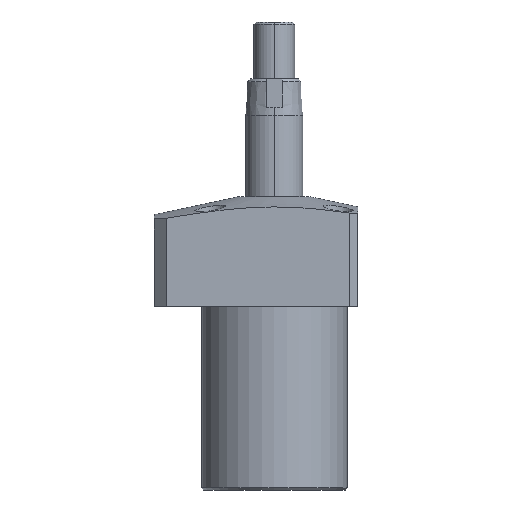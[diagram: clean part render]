
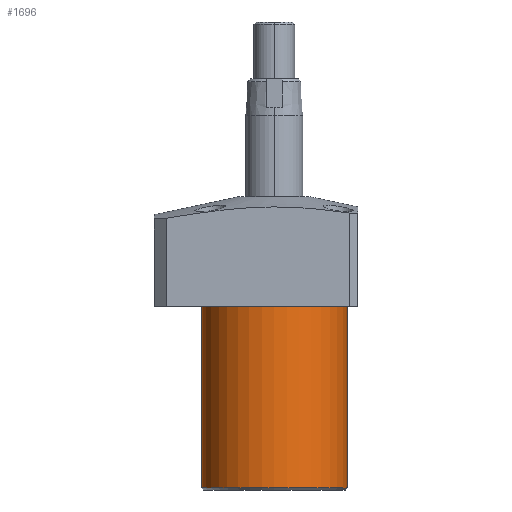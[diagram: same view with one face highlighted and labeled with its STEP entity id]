
A CAD part, front view. The second image highlights one B-rep face of the part: STEP entity #1696.
In plain terms, the highlighted cylindrical face has radius 17.9 mm (diameter 35.8 mm), a partial arc.
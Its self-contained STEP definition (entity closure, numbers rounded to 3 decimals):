
#16 = FACE_OUTER_BOUND ( 'NONE', #1836, .T. ) ;
#19 = ORIENTED_EDGE ( 'NONE', *, *, #1297, .F. ) ;
#167 = DIRECTION ( 'NONE',  ( 0., 0., 1. ) ) ;
#169 = VERTEX_POINT ( 'NONE', #894 ) ;
#257 = DIRECTION ( 'NONE',  ( 1., 0., 0. ) ) ;
#276 = DIRECTION ( 'NONE',  ( 0., 0., 1. ) ) ;
#388 = DIRECTION ( 'NONE',  ( 0., 0., -1. ) ) ;
#627 = EDGE_CURVE ( 'NONE', #1006, #1910, #1211, .T. ) ;
#631 = CARTESIAN_POINT ( 'NONE',  ( 0., 0., 45. ) ) ;
#705 = AXIS2_PLACEMENT_3D ( 'NONE', #631, #276, #257 ) ;
#794 = DIRECTION ( 'NONE',  ( -1., 0., 0. ) ) ;
#894 = CARTESIAN_POINT ( 'NONE',  ( 17.9, 0., 0.5 ) ) ;
#901 = EDGE_CURVE ( 'NONE', #1008, #169, #1914, .T. ) ;
#923 = AXIS2_PLACEMENT_3D ( 'NONE', #1554, #167, #972 ) ;
#935 = CARTESIAN_POINT ( 'NONE',  ( -17.9, 0., 45. ) ) ;
#955 = DIRECTION ( 'NONE',  ( 0., 0., -1. ) ) ;
#972 = DIRECTION ( 'NONE',  ( 1., 0., 0. ) ) ;
#1006 = VERTEX_POINT ( 'NONE', #2181 ) ;
#1008 = VERTEX_POINT ( 'NONE', #1993 ) ;
#1017 = CARTESIAN_POINT ( 'NONE',  ( 0., 0., 45. ) ) ;
#1158 = LINE ( 'NONE', #935, #2512 ) ;
#1210 = AXIS2_PLACEMENT_3D ( 'NONE', #1017, #1548, #794 ) ;
#1211 = CIRCLE ( 'NONE', #705, 17.9 ) ;
#1271 = EDGE_CURVE ( 'NONE', #1006, #1008, #1158, .T. ) ;
#1297 = EDGE_CURVE ( 'NONE', #1910, #169, #2344, .T. ) ;
#1320 = ORIENTED_EDGE ( 'NONE', *, *, #1271, .T. ) ;
#1492 = CARTESIAN_POINT ( 'NONE',  ( 17.9, 0., 45. ) ) ;
#1548 = DIRECTION ( 'NONE',  ( 0., 0., -1. ) ) ;
#1554 = CARTESIAN_POINT ( 'NONE',  ( 0., 0., 0.5 ) ) ;
#1683 = ORIENTED_EDGE ( 'NONE', *, *, #627, .F. ) ;
#1696 = ADVANCED_FACE ( 'NONE', ( #16 ), #2322, .T. ) ;
#1754 = CARTESIAN_POINT ( 'NONE',  ( 17.9, 0., 45. ) ) ;
#1836 = EDGE_LOOP ( 'NONE', ( #19, #1683, #1320, #1892 ) ) ;
#1892 = ORIENTED_EDGE ( 'NONE', *, *, #901, .T. ) ;
#1910 = VERTEX_POINT ( 'NONE', #1492 ) ;
#1914 = CIRCLE ( 'NONE', #923, 17.9 ) ;
#1984 = VECTOR ( 'NONE', #388, 1000. ) ;
#1993 = CARTESIAN_POINT ( 'NONE',  ( -17.9, 0., 0.5 ) ) ;
#2181 = CARTESIAN_POINT ( 'NONE',  ( -17.9, 0., 45. ) ) ;
#2322 = CYLINDRICAL_SURFACE ( 'NONE', #1210, 17.9 ) ;
#2344 = LINE ( 'NONE', #1754, #1984 ) ;
#2512 = VECTOR ( 'NONE', #955, 1000. ) ;
